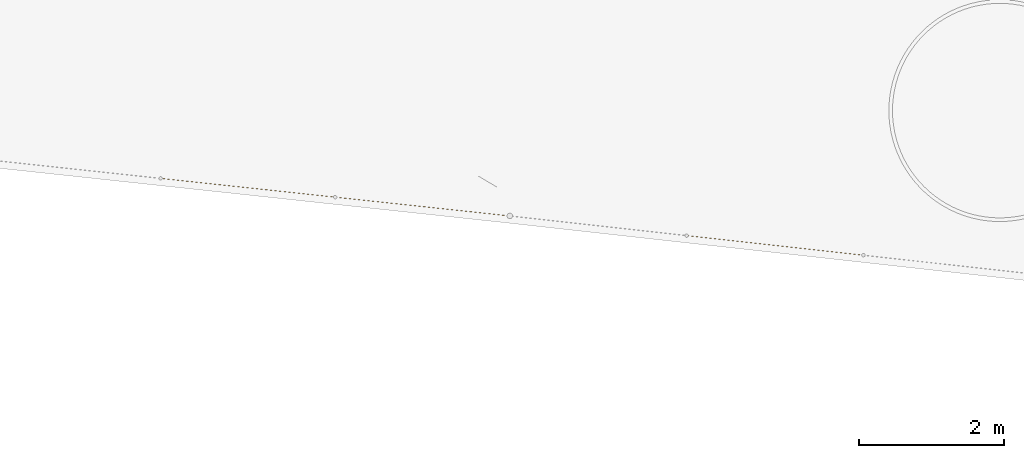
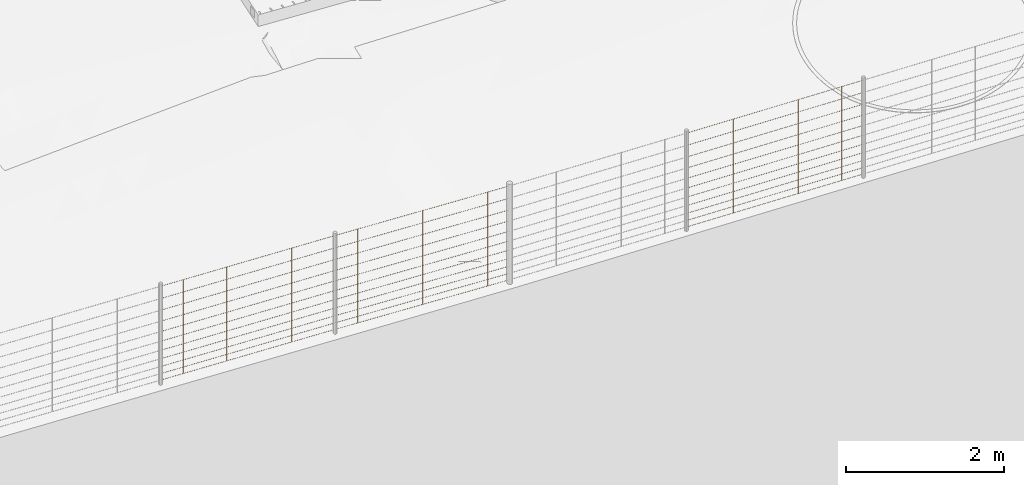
# Not in any storey, part 39 of 72: 3 railings.
"""IFC4 model written with IfcOpenShell, lengths in metres."""

from ifc_helpers import new_model, si_unit, direction, frame, origin_with_axes, place, context, subcontext, project, spatial, polygons, material, element, save


model = new_model("IFC4")

# Units and contexts
model_context = context("Model", 3, precision=1e-05, world=origin_with_axes(), true_north=direction((0.0, 1.0)))
body_context = subcontext(model_context, "Body", "Model", "MODEL_VIEW")
ifc_project = project(units=[si_unit("VOLUMEUNIT", "CUBIC_METRE"), si_unit("LENGTHUNIT", "METRE"), si_unit("AREAUNIT", "SQUARE_METRE")], contexts=[model_context])

# Site
site_placement = place(None, origin_with_axes())
site = spatial("IfcSite", under=ifc_project, at=site_placement, Name="Lares · Rua das Mercês · artigo 4771")

# Railings
ifc_material = material(Name="Aço galvanizado / Stahl verzinkt", Category="steel")
railing_1_placement = place(site_placement, frame((0.0, 0.0, 0.0), z_axis=(0.0, 0.0, 1.0), x_axis=(1.0, -1.03767253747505e-17, 0.0)))
element("IfcRailing", 1, at=railing_1_placement, inside=site, material=ifc_material, Name="Vedação · rede ovelheira 1.016", ObjectType="SHEEP_WIRE_FENCE", PredefinedType="USERDEFINED", context=body_context, shape_type="Tessellation", body=[
    polygons([(51.991151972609, -2.8472544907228, 13.8410060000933), (51.9910670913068, -2.84875428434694, 13.8395081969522), (51.9908208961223, -2.85023616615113, 13.8410060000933), (51.9909057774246, -2.848736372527, 13.8425038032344), (49.5601919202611, -2.57732782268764, 13.7084844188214), (49.5601070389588, -2.57882761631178, 13.7069866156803), (49.5598608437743, -2.58030949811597, 13.7084844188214), (49.5599457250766, -2.57880970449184, 13.7099822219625), (51.991151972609, -2.8472544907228, 13.9410060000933), (51.9910670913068, -2.84875428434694, 13.9395081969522), (51.9908208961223, -2.85023616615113, 13.9410060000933), (51.9909057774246, -2.848736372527, 13.9425038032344), (49.5601919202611, -2.57732782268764, 13.8084844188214), (49.5601070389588, -2.57882761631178, 13.8069866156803), (49.5598608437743, -2.58030949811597, 13.8084844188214), (49.5599457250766, -2.57880970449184, 13.8099822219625), (51.991151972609, -2.8472544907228, 14.0510060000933), (51.9910670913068, -2.84875428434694, 14.0495081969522), (51.9908208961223, -2.85023616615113, 14.0510060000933), (51.9909057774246, -2.848736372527, 14.0525038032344), (49.5601919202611, -2.57732782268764, 13.9184844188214), (49.5601070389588, -2.57882761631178, 13.9169866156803), (49.5598608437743, -2.58030949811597, 13.9184844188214), (49.5599457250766, -2.57880970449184, 13.9199822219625), (51.991151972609, -2.8472544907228, 14.1710060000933), (51.9910670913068, -2.84875428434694, 14.1695081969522), (51.9908208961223, -2.85023616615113, 14.1710060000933), (51.9909057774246, -2.848736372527, 14.1725038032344), (49.5601919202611, -2.57732782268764, 14.0384844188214), (49.5601070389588, -2.57882761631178, 14.0369866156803), (49.5598608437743, -2.58030949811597, 14.0384844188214), (49.5599457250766, -2.57880970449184, 14.0399822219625), (51.991151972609, -2.8472544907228, 14.3010060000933), (51.9910670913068, -2.84875428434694, 14.2995081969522), (51.9908208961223, -2.85023616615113, 14.3010060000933), (51.9909057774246, -2.848736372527, 14.3025038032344), (49.5601919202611, -2.57732782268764, 14.1684844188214), (49.5601070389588, -2.57882761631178, 14.1669866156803), (49.5598608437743, -2.58030949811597, 14.1684844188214), (49.5599457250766, -2.57880970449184, 14.1699822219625), (51.991151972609, -2.8472544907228, 14.4410060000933), (51.9910670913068, -2.84875428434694, 14.4395081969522), (51.9908208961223, -2.85023616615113, 14.4410060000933), (51.9909057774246, -2.848736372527, 14.4425038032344), (49.5601919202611, -2.57732782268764, 14.3084844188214), (49.5601070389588, -2.57882761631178, 14.3069866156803), (49.5598608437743, -2.58030949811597, 14.3084844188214), (49.5599457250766, -2.57880970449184, 14.3099822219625), (51.991151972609, -2.8472544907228, 14.5910060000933), (51.9910670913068, -2.84875428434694, 14.5895081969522), (51.9908208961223, -2.85023616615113, 14.5910060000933), (51.9909057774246, -2.848736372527, 14.5925038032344), (49.5601919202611, -2.57732782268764, 14.4584844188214), (49.5601070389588, -2.57882761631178, 14.4569866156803), (49.5598608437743, -2.58030949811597, 14.4584844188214), (49.5599457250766, -2.57880970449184, 14.4599822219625), (51.991151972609, -2.8472544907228, 14.7510060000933), (51.9910670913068, -2.84875428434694, 14.7495081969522), (51.9908208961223, -2.85023616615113, 14.7510060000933), (51.9909057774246, -2.848736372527, 14.7525038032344), (49.5601919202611, -2.57732782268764, 14.6184844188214), (49.5601070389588, -2.57882761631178, 14.6169866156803), (49.5598608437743, -2.58030949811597, 14.6184844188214), (49.5599457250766, -2.57880970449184, 14.6199822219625), (51.991151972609, -2.8472544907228, 14.9210060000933), (51.9910670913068, -2.84875428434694, 14.9195081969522), (51.9908208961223, -2.85023616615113, 14.9210060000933), (51.9909057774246, -2.848736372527, 14.9225038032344), (49.5601919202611, -2.57732782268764, 14.7884844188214), (49.5601070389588, -2.57882761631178, 14.7869866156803), (49.5598608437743, -2.58030949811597, 14.7884844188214), (49.5599457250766, -2.57880970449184, 14.7899822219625), (51.991151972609, -2.8472544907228, 15.1010060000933), (51.9910670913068, -2.84875428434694, 15.0995081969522), (51.9908208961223, -2.85023616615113, 15.1010060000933), (51.9909057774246, -2.848736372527, 15.1025038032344), (49.5601919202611, -2.57732782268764, 14.9684844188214), (49.5601070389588, -2.57882761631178, 14.9669866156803), (49.5598608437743, -2.58030949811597, 14.9684844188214), (49.5599457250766, -2.57880970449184, 14.9699822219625), (51.991151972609, -2.8472544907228, 15.2910060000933), (51.9910670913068, -2.84875428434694, 15.2895081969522), (51.9908208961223, -2.85023616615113, 15.2910060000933), (51.9909057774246, -2.848736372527, 15.2925038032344), (49.5601919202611, -2.57732782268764, 15.1584844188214), (49.5601070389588, -2.57882761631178, 15.1569866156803), (49.5598608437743, -2.58030949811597, 15.1584844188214), (49.5599457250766, -2.57880970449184, 15.1599822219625), (51.6928188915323, -2.81413767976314, 13.8247516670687), (51.6913188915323, -2.81563767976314, 13.8247516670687), (51.6928188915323, -2.81713767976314, 13.8247516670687), (51.6943188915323, -2.81563767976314, 13.8247516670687), (51.6928188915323, -2.81413767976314, 15.2747516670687), (51.6913188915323, -2.81563767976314, 15.2747516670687), (51.6928188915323, -2.81713767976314, 15.2747516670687), (51.6943188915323, -2.81563767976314, 15.2747516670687), (51.3946513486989, -2.78103003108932, 13.8084973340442), (51.3931513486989, -2.78253003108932, 13.8084973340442), (51.3946513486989, -2.78403003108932, 13.8084973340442), (51.3961513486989, -2.78253003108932, 13.8084973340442), (51.3946513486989, -2.78103003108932, 15.2584973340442), (51.3931513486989, -2.78253003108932, 15.2584973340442), (51.3946513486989, -2.78403003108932, 15.2584973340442), (51.3961513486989, -2.78253003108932, 15.2584973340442), (51.0964838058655, -2.74792238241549, 13.7922430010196), (51.0949838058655, -2.74942238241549, 13.7922430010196), (51.0964838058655, -2.75092238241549, 13.7922430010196), (51.0979838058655, -2.74942238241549, 13.7922430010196), (51.0964838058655, -2.74792238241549, 15.2422430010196), (51.0949838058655, -2.74942238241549, 15.2422430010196), (51.0964838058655, -2.75092238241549, 15.2422430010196), (51.0979838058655, -2.74942238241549, 15.2422430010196), (50.7983162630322, -2.71481473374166, 13.7759886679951), (50.7968162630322, -2.71631473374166, 13.7759886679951), (50.7983162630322, -2.71781473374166, 13.7759886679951), (50.7998162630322, -2.71631473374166, 13.7759886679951), (50.7983162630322, -2.71481473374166, 15.2259886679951), (50.7968162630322, -2.71631473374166, 15.2259886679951), (50.7983162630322, -2.71781473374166, 15.2259886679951), (50.7998162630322, -2.71631473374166, 15.2259886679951), (50.5001487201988, -2.68170708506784, 13.7597343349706), (50.4986487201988, -2.68320708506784, 13.7597343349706), (50.5001487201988, -2.68470708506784, 13.7597343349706), (50.5016487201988, -2.68320708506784, 13.7597343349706), (50.5001487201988, -2.68170708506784, 15.2097343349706), (50.4986487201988, -2.68320708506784, 15.2097343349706), (50.5001487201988, -2.68470708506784, 15.2097343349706), (50.5016487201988, -2.68320708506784, 15.2097343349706), (50.2019811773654, -2.64859943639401, 13.743480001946), (50.2004811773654, -2.65009943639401, 13.743480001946), (50.2019811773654, -2.65159943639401, 13.743480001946), (50.2034811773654, -2.65009943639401, 13.743480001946), (50.2019811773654, -2.64859943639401, 15.193480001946), (50.2004811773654, -2.65009943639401, 15.193480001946), (50.2019811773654, -2.65159943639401, 15.193480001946), (50.2034811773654, -2.65009943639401, 15.193480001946), (49.9038136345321, -2.61549178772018, 13.7272256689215), (49.9023136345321, -2.61699178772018, 13.7272256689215), (49.9038136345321, -2.61849178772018, 13.7272256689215), (49.9053136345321, -2.61699178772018, 13.7272256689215), (49.9038136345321, -2.61549178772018, 15.1772256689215), (49.9023136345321, -2.61699178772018, 15.1772256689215), (49.9038136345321, -2.61849178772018, 15.1772256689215), (49.9053136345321, -2.61699178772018, 15.1772256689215)], [[[4, 3, 2, 1]], [[5, 6, 7, 8]], [[1, 2, 6, 5]], [[2, 3, 7, 6]], [[3, 4, 8, 7]], [[4, 1, 5, 8]], [[12, 11, 10, 9]], [[13, 14, 15, 16]], [[9, 10, 14, 13]], [[10, 11, 15, 14]], [[11, 12, 16, 15]], [[12, 9, 13, 16]], [[20, 19, 18, 17]], [[21, 22, 23, 24]], [[17, 18, 22, 21]], [[18, 19, 23, 22]], [[19, 20, 24, 23]], [[20, 17, 21, 24]], [[28, 27, 26, 25]], [[29, 30, 31, 32]], [[25, 26, 30, 29]], [[26, 27, 31, 30]], [[27, 28, 32, 31]], [[28, 25, 29, 32]], [[36, 35, 34, 33]], [[37, 38, 39, 40]], [[33, 34, 38, 37]], [[34, 35, 39, 38]], [[35, 36, 40, 39]], [[36, 33, 37, 40]], [[44, 43, 42, 41]], [[45, 46, 47, 48]], [[41, 42, 46, 45]], [[42, 43, 47, 46]], [[43, 44, 48, 47]], [[44, 41, 45, 48]], [[52, 51, 50, 49]], [[53, 54, 55, 56]], [[49, 50, 54, 53]], [[50, 51, 55, 54]], [[51, 52, 56, 55]], [[52, 49, 53, 56]], [[60, 59, 58, 57]], [[61, 62, 63, 64]], [[57, 58, 62, 61]], [[58, 59, 63, 62]], [[59, 60, 64, 63]], [[60, 57, 61, 64]], [[68, 67, 66, 65]], [[69, 70, 71, 72]], [[65, 66, 70, 69]], [[66, 67, 71, 70]], [[67, 68, 72, 71]], [[68, 65, 69, 72]], [[76, 75, 74, 73]], [[77, 78, 79, 80]], [[73, 74, 78, 77]], [[74, 75, 79, 78]], [[75, 76, 80, 79]], [[76, 73, 77, 80]], [[84, 83, 82, 81]], [[85, 86, 87, 88]], [[81, 82, 86, 85]], [[82, 83, 87, 86]], [[83, 84, 88, 87]], [[84, 81, 85, 88]], [[92, 91, 90, 89]], [[93, 94, 95, 96]], [[89, 90, 94, 93]], [[90, 91, 95, 94]], [[91, 92, 96, 95]], [[92, 89, 93, 96]], [[100, 99, 98, 97]], [[101, 102, 103, 104]], [[97, 98, 102, 101]], [[98, 99, 103, 102]], [[99, 100, 104, 103]], [[100, 97, 101, 104]], [[108, 107, 106, 105]], [[109, 110, 111, 112]], [[105, 106, 110, 109]], [[106, 107, 111, 110]], [[107, 108, 112, 111]], [[108, 105, 109, 112]], [[116, 115, 114, 113]], [[117, 118, 119, 120]], [[113, 114, 118, 117]], [[114, 115, 119, 118]], [[115, 116, 120, 119]], [[116, 113, 117, 120]], [[124, 123, 122, 121]], [[125, 126, 127, 128]], [[121, 122, 126, 125]], [[122, 123, 127, 126]], [[123, 124, 128, 127]], [[124, 121, 125, 128]], [[132, 131, 130, 129]], [[133, 134, 135, 136]], [[129, 130, 134, 133]], [[130, 131, 135, 134]], [[131, 132, 136, 135]], [[132, 129, 133, 136]], [[140, 139, 138, 137]], [[141, 142, 143, 144]], [[137, 138, 142, 141]], [[138, 139, 143, 142]], [[139, 140, 144, 143]], [[140, 137, 141, 144]]]),
])
railing_2_placement = place(site_placement, frame((0.0, 0.0, 0.0), z_axis=(0.0, 0.0, 1.0), x_axis=(1.0, -1.03767253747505e-17, 0.0)))
element("IfcRailing", 2, at=railing_2_placement, inside=site, material=ifc_material, Name="Vedação · rede ovelheira 1.018", ObjectType="SHEEP_WIRE_FENCE", PredefinedType="USERDEFINED", context=body_context, shape_type="Tessellation", body=[
    polygons([(47.1292267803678, -2.30740059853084, 13.5809563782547), (47.1291173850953, -2.30889748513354, 13.5794572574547), (47.1289058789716, -2.31038338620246, 13.5809563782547), (47.1290152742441, -2.30888649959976, 13.5824554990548), (44.7285112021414, -2.0491210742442, 13.4982490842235), (44.7284018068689, -2.0506179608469, 13.4967499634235), (44.7281903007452, -2.05210386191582, 13.4982490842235), (44.7282996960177, -2.05060697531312, 13.4997482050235), (47.1292267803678, -2.30740059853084, 13.6809563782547), (47.1291173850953, -2.30889748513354, 13.6794572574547), (47.1289058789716, -2.31038338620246, 13.6809563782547), (47.1290152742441, -2.30888649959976, 13.6824554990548), (44.7285112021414, -2.0491210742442, 13.5982490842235), (44.7284018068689, -2.0506179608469, 13.5967499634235), (44.7281903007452, -2.05210386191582, 13.5982490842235), (44.7282996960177, -2.05060697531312, 13.5997482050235), (47.1292267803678, -2.30740059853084, 13.7909563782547), (47.1291173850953, -2.30889748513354, 13.7894572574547), (47.1289058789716, -2.31038338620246, 13.7909563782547), (47.1290152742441, -2.30888649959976, 13.7924554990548), (44.7285112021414, -2.0491210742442, 13.7082490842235), (44.7284018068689, -2.0506179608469, 13.7067499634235), (44.7281903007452, -2.05210386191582, 13.7082490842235), (44.7282996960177, -2.05060697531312, 13.7097482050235), (47.1292267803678, -2.30740059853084, 13.9109563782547), (47.1291173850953, -2.30889748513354, 13.9094572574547), (47.1289058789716, -2.31038338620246, 13.9109563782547), (47.1290152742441, -2.30888649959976, 13.9124554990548), (44.7285112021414, -2.0491210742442, 13.8282490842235), (44.7284018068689, -2.0506179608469, 13.8267499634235), (44.7281903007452, -2.05210386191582, 13.8282490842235), (44.7282996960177, -2.05060697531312, 13.8297482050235), (47.1292267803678, -2.30740059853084, 14.0409563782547), (47.1291173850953, -2.30889748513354, 14.0394572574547), (47.1289058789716, -2.31038338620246, 14.0409563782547), (47.1290152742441, -2.30888649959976, 14.0424554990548), (44.7285112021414, -2.0491210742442, 13.9582490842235), (44.7284018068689, -2.0506179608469, 13.9567499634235), (44.7281903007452, -2.05210386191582, 13.9582490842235), (44.7282996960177, -2.05060697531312, 13.9597482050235), (47.1292267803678, -2.30740059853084, 14.1809563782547), (47.1291173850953, -2.30889748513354, 14.1794572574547), (47.1289058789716, -2.31038338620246, 14.1809563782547), (47.1290152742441, -2.30888649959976, 14.1824554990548), (44.7285112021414, -2.0491210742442, 14.0982490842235), (44.7284018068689, -2.0506179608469, 14.0967499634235), (44.7281903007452, -2.05210386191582, 14.0982490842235), (44.7282996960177, -2.05060697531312, 14.0997482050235), (47.1292267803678, -2.30740059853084, 14.3309563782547), (47.1291173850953, -2.30889748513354, 14.3294572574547), (47.1289058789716, -2.31038338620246, 14.3309563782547), (47.1290152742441, -2.30888649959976, 14.3324554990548), (44.7285112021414, -2.0491210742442, 14.2482490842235), (44.7284018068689, -2.0506179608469, 14.2467499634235), (44.7281903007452, -2.05210386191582, 14.2482490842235), (44.7282996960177, -2.05060697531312, 14.2497482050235), (47.1292267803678, -2.30740059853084, 14.4909563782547), (47.1291173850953, -2.30889748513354, 14.4894572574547), (47.1289058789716, -2.31038338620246, 14.4909563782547), (47.1290152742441, -2.30888649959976, 14.4924554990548), (44.7285112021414, -2.0491210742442, 14.4082490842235), (44.7284018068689, -2.0506179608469, 14.4067499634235), (44.7281903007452, -2.05210386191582, 14.4082490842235), (44.7282996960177, -2.05060697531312, 14.4097482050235), (47.1292267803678, -2.30740059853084, 14.6609563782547), (47.1291173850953, -2.30889748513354, 14.6594572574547), (47.1289058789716, -2.31038338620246, 14.6609563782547), (47.1290152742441, -2.30888649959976, 14.6624554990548), (44.7285112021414, -2.0491210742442, 14.5782490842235), (44.7284018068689, -2.0506179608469, 14.5767499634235), (44.7281903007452, -2.05210386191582, 14.5782490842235), (44.7282996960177, -2.05060697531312, 14.5797482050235), (47.1292267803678, -2.30740059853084, 14.8409563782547), (47.1291173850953, -2.30889748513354, 14.8394572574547), (47.1289058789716, -2.31038338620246, 14.8409563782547), (47.1290152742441, -2.30888649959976, 14.8424554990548), (44.7285112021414, -2.0491210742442, 14.7582490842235), (44.7284018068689, -2.0506179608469, 14.7567499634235), (44.7281903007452, -2.05210386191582, 14.7582490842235), (44.7282996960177, -2.05060697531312, 14.7597482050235), (47.1292267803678, -2.30740059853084, 15.0309563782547), (47.1291173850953, -2.30889748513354, 15.0294572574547), (47.1289058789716, -2.31038338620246, 15.0309563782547), (47.1290152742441, -2.30888649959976, 15.0324554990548), (44.7285112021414, -2.0491210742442, 14.9482490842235), (44.7284018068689, -2.0506179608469, 14.9467499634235), (44.7281903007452, -2.05210386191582, 14.9482490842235), (44.7282996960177, -2.05060697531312, 14.9497482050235), (46.8307875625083, -2.27530185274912, 13.5706803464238), (46.8292875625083, -2.27680185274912, 13.5706803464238), (46.8307875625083, -2.27830185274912, 13.5706803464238), (46.8322875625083, -2.27680185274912, 13.5706803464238), (46.8307875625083, -2.27530185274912, 15.0206803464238), (46.8292875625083, -2.27680185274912, 15.0206803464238), (46.8307875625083, -2.27830185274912, 15.0206803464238), (46.8322875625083, -2.27680185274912, 15.0206803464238), (46.5325087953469, -2.2432117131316, 13.5604043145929), (46.5310087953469, -2.2447117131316, 13.5604043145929), (46.5325087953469, -2.2462117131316, 13.5604043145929), (46.5340087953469, -2.2447117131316, 13.5604043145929), (46.5325087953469, -2.2432117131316, 15.0104043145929), (46.5310087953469, -2.2447117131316, 15.0104043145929), (46.5325087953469, -2.2462117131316, 15.0104043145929), (46.5340087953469, -2.2447117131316, 15.0104043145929), (46.2342300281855, -2.21112157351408, 13.5501282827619), (46.2327300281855, -2.21262157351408, 13.5501282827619), (46.2342300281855, -2.21412157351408, 13.5501282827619), (46.2357300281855, -2.21262157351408, 13.5501282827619), (46.2342300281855, -2.21112157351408, 15.0001282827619), (46.2327300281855, -2.21262157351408, 15.0001282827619), (46.2342300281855, -2.21412157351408, 15.0001282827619), (46.2357300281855, -2.21262157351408, 15.0001282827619), (45.9359512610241, -2.17903143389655, 13.539852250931), (45.9344512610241, -2.18053143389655, 13.539852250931), (45.9359512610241, -2.18203143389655, 13.539852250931), (45.9374512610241, -2.18053143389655, 13.539852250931), (45.9359512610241, -2.17903143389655, 14.989852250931), (45.9344512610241, -2.18053143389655, 14.989852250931), (45.9359512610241, -2.18203143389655, 14.989852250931), (45.9374512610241, -2.18053143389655, 14.989852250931), (45.6376724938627, -2.14694129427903, 13.5295762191), (45.6361724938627, -2.14844129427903, 13.5295762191), (45.6376724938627, -2.14994129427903, 13.5295762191), (45.6391724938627, -2.14844129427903, 13.5295762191), (45.6376724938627, -2.14694129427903, 14.9795762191), (45.6361724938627, -2.14844129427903, 14.9795762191), (45.6376724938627, -2.14994129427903, 14.9795762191), (45.6391724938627, -2.14844129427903, 14.9795762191), (45.3393937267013, -2.1148511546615, 13.5193001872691), (45.3378937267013, -2.1163511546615, 13.5193001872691), (45.3393937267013, -2.1178511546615, 13.5193001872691), (45.3408937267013, -2.1163511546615, 13.5193001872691), (45.3393937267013, -2.1148511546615, 14.9693001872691), (45.3378937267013, -2.1163511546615, 14.9693001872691), (45.3393937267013, -2.1178511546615, 14.9693001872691), (45.3408937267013, -2.1163511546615, 14.9693001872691), (45.0411149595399, -2.08276101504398, 13.5090241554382), (45.0396149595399, -2.08426101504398, 13.5090241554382), (45.0411149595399, -2.08576101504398, 13.5090241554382), (45.0426149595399, -2.08426101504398, 13.5090241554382), (45.0411149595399, -2.08276101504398, 14.9590241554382), (45.0396149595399, -2.08426101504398, 14.9590241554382), (45.0411149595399, -2.08576101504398, 14.9590241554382), (45.0426149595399, -2.08426101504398, 14.9590241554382)], [[[4, 3, 2, 1]], [[5, 6, 7, 8]], [[1, 2, 6, 5]], [[2, 3, 7, 6]], [[3, 4, 8, 7]], [[4, 1, 5, 8]], [[12, 11, 10, 9]], [[13, 14, 15, 16]], [[9, 10, 14, 13]], [[10, 11, 15, 14]], [[11, 12, 16, 15]], [[12, 9, 13, 16]], [[20, 19, 18, 17]], [[21, 22, 23, 24]], [[17, 18, 22, 21]], [[18, 19, 23, 22]], [[19, 20, 24, 23]], [[20, 17, 21, 24]], [[28, 27, 26, 25]], [[29, 30, 31, 32]], [[25, 26, 30, 29]], [[26, 27, 31, 30]], [[27, 28, 32, 31]], [[28, 25, 29, 32]], [[36, 35, 34, 33]], [[37, 38, 39, 40]], [[33, 34, 38, 37]], [[34, 35, 39, 38]], [[35, 36, 40, 39]], [[36, 33, 37, 40]], [[44, 43, 42, 41]], [[45, 46, 47, 48]], [[41, 42, 46, 45]], [[42, 43, 47, 46]], [[43, 44, 48, 47]], [[44, 41, 45, 48]], [[52, 51, 50, 49]], [[53, 54, 55, 56]], [[49, 50, 54, 53]], [[50, 51, 55, 54]], [[51, 52, 56, 55]], [[52, 49, 53, 56]], [[60, 59, 58, 57]], [[61, 62, 63, 64]], [[57, 58, 62, 61]], [[58, 59, 63, 62]], [[59, 60, 64, 63]], [[60, 57, 61, 64]], [[68, 67, 66, 65]], [[69, 70, 71, 72]], [[65, 66, 70, 69]], [[66, 67, 71, 70]], [[67, 68, 72, 71]], [[68, 65, 69, 72]], [[76, 75, 74, 73]], [[77, 78, 79, 80]], [[73, 74, 78, 77]], [[74, 75, 79, 78]], [[75, 76, 80, 79]], [[76, 73, 77, 80]], [[84, 83, 82, 81]], [[85, 86, 87, 88]], [[81, 82, 86, 85]], [[82, 83, 87, 86]], [[83, 84, 88, 87]], [[84, 81, 85, 88]], [[92, 91, 90, 89]], [[93, 94, 95, 96]], [[89, 90, 94, 93]], [[90, 91, 95, 94]], [[91, 92, 96, 95]], [[92, 89, 93, 96]], [[100, 99, 98, 97]], [[101, 102, 103, 104]], [[97, 98, 102, 101]], [[98, 99, 103, 102]], [[99, 100, 104, 103]], [[100, 97, 101, 104]], [[108, 107, 106, 105]], [[109, 110, 111, 112]], [[105, 106, 110, 109]], [[106, 107, 111, 110]], [[107, 108, 112, 111]], [[108, 105, 109, 112]], [[116, 115, 114, 113]], [[117, 118, 119, 120]], [[113, 114, 118, 117]], [[114, 115, 119, 118]], [[115, 116, 120, 119]], [[116, 113, 117, 120]], [[124, 123, 122, 121]], [[125, 126, 127, 128]], [[121, 122, 126, 125]], [[122, 123, 127, 126]], [[123, 124, 128, 127]], [[124, 121, 125, 128]], [[132, 131, 130, 129]], [[133, 134, 135, 136]], [[129, 130, 134, 133]], [[130, 131, 135, 134]], [[131, 132, 136, 135]], [[132, 129, 133, 136]], [[140, 139, 138, 137]], [[141, 142, 143, 144]], [[137, 138, 142, 141]], [[138, 139, 143, 142]], [[139, 140, 144, 143]], [[140, 137, 141, 144]]]),
])
railing_3_placement = place(site_placement, frame((0.0, 0.0, 0.0), z_axis=(0.0, 0.0, 1.0), x_axis=(1.0, -1.03767253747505e-17, 0.0)))
element("IfcRailing", 3, at=railing_3_placement, inside=site, material=ifc_material, Name="Vedação · rede ovelheira 1.019", ObjectType="SHEEP_WIRE_FENCE", PredefinedType="USERDEFINED", context=body_context, shape_type="Tessellation", body=[
    polygons([(44.7285112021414, -2.0491210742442, 13.4982490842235), (44.7284128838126, -2.05061915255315, 13.4967503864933), (44.7281903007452, -2.05210386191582, 13.4982490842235), (44.7282886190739, -2.05060578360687, 13.4997477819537), (42.3277956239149, -1.79084154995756, 13.3975692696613), (42.3276973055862, -1.79233962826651, 13.3960705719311), (42.3274747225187, -1.79382433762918, 13.3975692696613), (42.3275730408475, -1.79232625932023, 13.3990679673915), (44.7285112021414, -2.0491210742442, 13.5982490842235), (44.7284128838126, -2.05061915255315, 13.5967503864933), (44.7281903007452, -2.05210386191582, 13.5982490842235), (44.7282886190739, -2.05060578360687, 13.5997477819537), (42.3277956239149, -1.79084154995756, 13.4975692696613), (42.3276973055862, -1.79233962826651, 13.4960705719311), (42.3274747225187, -1.79382433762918, 13.4975692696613), (42.3275730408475, -1.79232625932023, 13.4990679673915), (44.7285112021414, -2.0491210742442, 13.7082490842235), (44.7284128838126, -2.05061915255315, 13.7067503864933), (44.7281903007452, -2.05210386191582, 13.7082490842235), (44.7282886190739, -2.05060578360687, 13.7097477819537), (42.3277956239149, -1.79084154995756, 13.6075692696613), (42.3276973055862, -1.79233962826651, 13.6060705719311), (42.3274747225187, -1.79382433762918, 13.6075692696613), (42.3275730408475, -1.79232625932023, 13.6090679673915), (44.7285112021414, -2.0491210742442, 13.8282490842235), (44.7284128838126, -2.05061915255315, 13.8267503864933), (44.7281903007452, -2.05210386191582, 13.8282490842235), (44.7282886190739, -2.05060578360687, 13.8297477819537), (42.3277956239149, -1.79084154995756, 13.7275692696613), (42.3276973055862, -1.79233962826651, 13.7260705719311), (42.3274747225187, -1.79382433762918, 13.7275692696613), (42.3275730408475, -1.79232625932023, 13.7290679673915), (44.7285112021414, -2.0491210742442, 13.9582490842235), (44.7284128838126, -2.05061915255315, 13.9567503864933), (44.7281903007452, -2.05210386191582, 13.9582490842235), (44.7282886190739, -2.05060578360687, 13.9597477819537), (42.3277956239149, -1.79084154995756, 13.8575692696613), (42.3276973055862, -1.79233962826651, 13.8560705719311), (42.3274747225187, -1.79382433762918, 13.8575692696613), (42.3275730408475, -1.79232625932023, 13.8590679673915), (44.7285112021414, -2.0491210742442, 14.0982490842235), (44.7284128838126, -2.05061915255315, 14.0967503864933), (44.7281903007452, -2.05210386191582, 14.0982490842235), (44.7282886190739, -2.05060578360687, 14.0997477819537), (42.3277956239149, -1.79084154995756, 13.9975692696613), (42.3276973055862, -1.79233962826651, 13.9960705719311), (42.3274747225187, -1.79382433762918, 13.9975692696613), (42.3275730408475, -1.79232625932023, 13.9990679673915), (44.7285112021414, -2.0491210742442, 14.2482490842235), (44.7284128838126, -2.05061915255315, 14.2467503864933), (44.7281903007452, -2.05210386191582, 14.2482490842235), (44.7282886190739, -2.05060578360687, 14.2497477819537), (42.3277956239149, -1.79084154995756, 14.1475692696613), (42.3276973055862, -1.79233962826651, 14.1460705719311), (42.3274747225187, -1.79382433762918, 14.1475692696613), (42.3275730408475, -1.79232625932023, 14.1490679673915), (44.7285112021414, -2.0491210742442, 14.4082490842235), (44.7284128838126, -2.05061915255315, 14.4067503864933), (44.7281903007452, -2.05210386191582, 14.4082490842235), (44.7282886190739, -2.05060578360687, 14.4097477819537), (42.3277956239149, -1.79084154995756, 14.3075692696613), (42.3276973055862, -1.79233962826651, 14.3060705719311), (42.3274747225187, -1.79382433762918, 14.3075692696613), (42.3275730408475, -1.79232625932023, 14.3090679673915), (44.7285112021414, -2.0491210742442, 14.5782490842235), (44.7284128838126, -2.05061915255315, 14.5767503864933), (44.7281903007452, -2.05210386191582, 14.5782490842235), (44.7282886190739, -2.05060578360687, 14.5797477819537), (42.3277956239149, -1.79084154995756, 14.4775692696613), (42.3276973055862, -1.79233962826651, 14.4760705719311), (42.3274747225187, -1.79382433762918, 14.4775692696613), (42.3275730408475, -1.79232625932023, 14.4790679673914), (44.7285112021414, -2.0491210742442, 14.7582490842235), (44.7284128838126, -2.05061915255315, 14.7567503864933), (44.7281903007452, -2.05210386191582, 14.7582490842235), (44.7282886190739, -2.05060578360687, 14.7597477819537), (42.3277956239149, -1.79084154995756, 14.6575692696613), (42.3276973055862, -1.79233962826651, 14.6560705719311), (42.3274747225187, -1.79382433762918, 14.6575692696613), (42.3275730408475, -1.79232625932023, 14.6590679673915), (44.7285112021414, -2.0491210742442, 14.9482490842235), (44.7284128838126, -2.05061915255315, 14.9467503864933), (44.7281903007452, -2.05210386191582, 14.9482490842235), (44.7282886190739, -2.05060578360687, 14.9497477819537), (42.3277956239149, -1.79084154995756, 14.8475692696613), (42.3276973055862, -1.79233962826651, 14.8460705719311), (42.3274747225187, -1.79382433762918, 14.8475692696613), (42.3275730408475, -1.79232625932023, 14.8490679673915), (44.4300719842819, -2.01702232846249, 13.4857400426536), (44.4285719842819, -2.01852232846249, 13.4857400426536), (44.4300719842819, -2.02002232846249, 13.4857400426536), (44.4315719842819, -2.01852232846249, 13.4857400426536), (44.4300719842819, -2.01702232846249, 14.9357400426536), (44.4285719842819, -2.01852232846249, 14.9357400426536), (44.4300719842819, -2.02002232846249, 14.9357400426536), (44.4315719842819, -2.01852232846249, 14.9357400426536), (44.1317932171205, -1.98493218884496, 13.4732310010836), (44.1302932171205, -1.98643218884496, 13.4732310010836), (44.1317932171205, -1.98793218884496, 13.4732310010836), (44.1332932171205, -1.98643218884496, 13.4732310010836), (44.1317932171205, -1.98493218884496, 14.9232310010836), (44.1302932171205, -1.98643218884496, 14.9232310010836), (44.1317932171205, -1.98793218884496, 14.9232310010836), (44.1332932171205, -1.98643218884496, 14.9232310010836), (43.8335144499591, -1.95284204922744, 13.4607219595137), (43.8320144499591, -1.95434204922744, 13.4607219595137), (43.8335144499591, -1.95584204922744, 13.4607219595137), (43.8350144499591, -1.95434204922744, 13.4607219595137), (43.8335144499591, -1.95284204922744, 14.9107219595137), (43.8320144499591, -1.95434204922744, 14.9107219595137), (43.8335144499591, -1.95584204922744, 14.9107219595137), (43.8350144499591, -1.95434204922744, 14.9107219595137), (43.5352356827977, -1.92075190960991, 13.4482129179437), (43.5337356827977, -1.92225190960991, 13.4482129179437), (43.5352356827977, -1.92375190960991, 13.4482129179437), (43.5367356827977, -1.92225190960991, 13.4482129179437), (43.5352356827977, -1.92075190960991, 14.8982129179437), (43.5337356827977, -1.92225190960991, 14.8982129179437), (43.5352356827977, -1.92375190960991, 14.8982129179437), (43.5367356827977, -1.92225190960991, 14.8982129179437), (43.2369569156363, -1.88866176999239, 13.4357038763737), (43.2354569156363, -1.89016176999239, 13.4357038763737), (43.2369569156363, -1.89166176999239, 13.4357038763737), (43.2384569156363, -1.89016176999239, 13.4357038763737), (43.2369569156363, -1.88866176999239, 14.8857038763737), (43.2354569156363, -1.89016176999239, 14.8857038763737), (43.2369569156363, -1.89166176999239, 14.8857038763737), (43.2384569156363, -1.89016176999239, 14.8857038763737), (42.9386781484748, -1.85657163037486, 13.4231948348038), (42.9371781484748, -1.85807163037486, 13.4231948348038), (42.9386781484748, -1.85957163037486, 13.4231948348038), (42.9401781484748, -1.85807163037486, 13.4231948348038), (42.9386781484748, -1.85657163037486, 14.8731948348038), (42.9371781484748, -1.85807163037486, 14.8731948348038), (42.9386781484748, -1.85957163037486, 14.8731948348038), (42.9401781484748, -1.85807163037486, 14.8731948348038), (42.6403993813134, -1.82448149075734, 13.4106857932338), (42.6388993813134, -1.82598149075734, 13.4106857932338), (42.6403993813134, -1.82748149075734, 13.4106857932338), (42.6418993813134, -1.82598149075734, 13.4106857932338), (42.6403993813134, -1.82448149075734, 14.8606857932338), (42.6388993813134, -1.82598149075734, 14.8606857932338), (42.6403993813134, -1.82748149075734, 14.8606857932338), (42.6418993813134, -1.82598149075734, 14.8606857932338)], [[[4, 3, 2, 1]], [[5, 6, 7, 8]], [[1, 2, 6, 5]], [[2, 3, 7, 6]], [[3, 4, 8, 7]], [[4, 1, 5, 8]], [[12, 11, 10, 9]], [[13, 14, 15, 16]], [[9, 10, 14, 13]], [[10, 11, 15, 14]], [[11, 12, 16, 15]], [[12, 9, 13, 16]], [[20, 19, 18, 17]], [[21, 22, 23, 24]], [[17, 18, 22, 21]], [[18, 19, 23, 22]], [[19, 20, 24, 23]], [[20, 17, 21, 24]], [[28, 27, 26, 25]], [[29, 30, 31, 32]], [[25, 26, 30, 29]], [[26, 27, 31, 30]], [[27, 28, 32, 31]], [[28, 25, 29, 32]], [[36, 35, 34, 33]], [[37, 38, 39, 40]], [[33, 34, 38, 37]], [[34, 35, 39, 38]], [[35, 36, 40, 39]], [[36, 33, 37, 40]], [[44, 43, 42, 41]], [[45, 46, 47, 48]], [[41, 42, 46, 45]], [[42, 43, 47, 46]], [[43, 44, 48, 47]], [[44, 41, 45, 48]], [[52, 51, 50, 49]], [[53, 54, 55, 56]], [[49, 50, 54, 53]], [[50, 51, 55, 54]], [[51, 52, 56, 55]], [[52, 49, 53, 56]], [[60, 59, 58, 57]], [[61, 62, 63, 64]], [[57, 58, 62, 61]], [[58, 59, 63, 62]], [[59, 60, 64, 63]], [[60, 57, 61, 64]], [[68, 67, 66, 65]], [[69, 70, 71, 72]], [[65, 66, 70, 69]], [[66, 67, 71, 70]], [[67, 68, 72, 71]], [[68, 65, 69, 72]], [[76, 75, 74, 73]], [[77, 78, 79, 80]], [[73, 74, 78, 77]], [[74, 75, 79, 78]], [[75, 76, 80, 79]], [[76, 73, 77, 80]], [[84, 83, 82, 81]], [[85, 86, 87, 88]], [[81, 82, 86, 85]], [[82, 83, 87, 86]], [[83, 84, 88, 87]], [[84, 81, 85, 88]], [[92, 91, 90, 89]], [[93, 94, 95, 96]], [[89, 90, 94, 93]], [[90, 91, 95, 94]], [[91, 92, 96, 95]], [[92, 89, 93, 96]], [[100, 99, 98, 97]], [[101, 102, 103, 104]], [[97, 98, 102, 101]], [[98, 99, 103, 102]], [[99, 100, 104, 103]], [[100, 97, 101, 104]], [[108, 107, 106, 105]], [[109, 110, 111, 112]], [[105, 106, 110, 109]], [[106, 107, 111, 110]], [[107, 108, 112, 111]], [[108, 105, 109, 112]], [[116, 115, 114, 113]], [[117, 118, 119, 120]], [[113, 114, 118, 117]], [[114, 115, 119, 118]], [[115, 116, 120, 119]], [[116, 113, 117, 120]], [[124, 123, 122, 121]], [[125, 126, 127, 128]], [[121, 122, 126, 125]], [[122, 123, 127, 126]], [[123, 124, 128, 127]], [[124, 121, 125, 128]], [[132, 131, 130, 129]], [[133, 134, 135, 136]], [[129, 130, 134, 133]], [[130, 131, 135, 134]], [[131, 132, 136, 135]], [[132, 129, 133, 136]], [[140, 139, 138, 137]], [[141, 142, 143, 144]], [[137, 138, 142, 141]], [[138, 139, 143, 142]], [[139, 140, 144, 143]], [[140, 137, 141, 144]]]),
])

save(model, "model.ifc")
